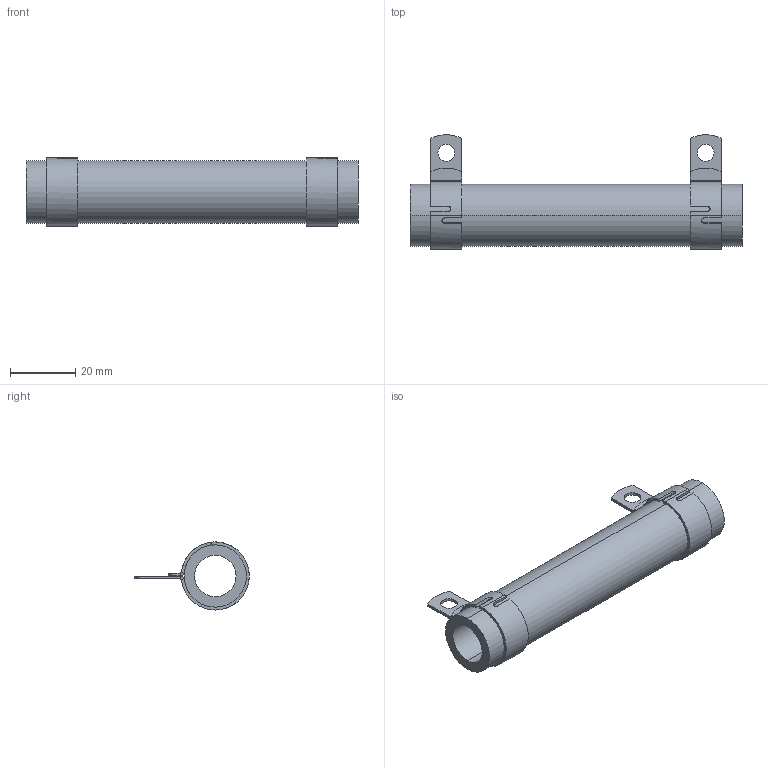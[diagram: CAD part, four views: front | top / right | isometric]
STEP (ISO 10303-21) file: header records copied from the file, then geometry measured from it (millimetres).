
FILE_DESCRIPTION (( 'STEP AP203' ), '1' );
FILE_NAME ('RBEF0110xxxxxKFB00.STEP', '2014-04-04T18:34:54', ( '' ), ( '' ), 'SwSTEP 2.0', 'SolidWorks 2012', '' );
FILE_SCHEMA (( 'CONFIG_CONTROL_DESIGN' ));
Length unit declared in the file: millimetre
Products named in the file (3): DAL013-04_DAL013-115; DAL15-160-XXX_DAL15-160-912-CLOSED; RBEF0110xxxxxKFB00
Assembly tree (3 placements, depth 2):
  RBEF0110xxxxxKFB00
    DAL013-04_DAL013-115
    DAL15-160-XXX_DAL15-160-912-CLOSED  x2
Bounding box: 101.6 x 35.06 x 20.83 mm (x, y, z)
Volume: 17366.4 mm3; surface area: 13709.6 mm2
Topology: 3 solids, 3 shells, 80 faces, 190 edges, 116 vertices
Faces by surface type: plane 42, cylinder 34, bspline 4
Entity records: 1706 total; most frequent: CARTESIAN_POINT 366, DIRECTION 229, ORIENTED_EDGE 202, EDGE_CURVE 101, AXIS2_PLACEMENT_3D 89, VERTEX_POINT 62, VECTOR 51, LINE 51
